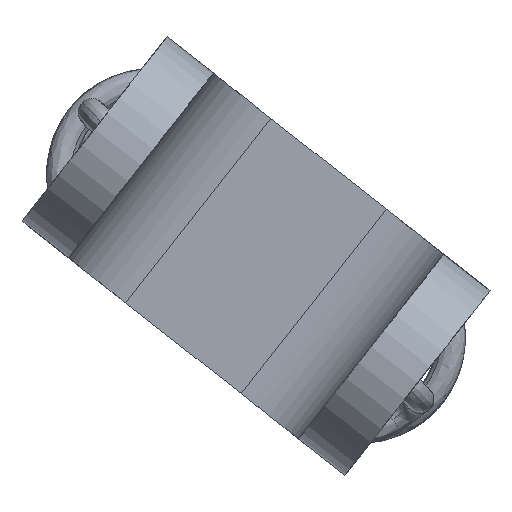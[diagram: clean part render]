
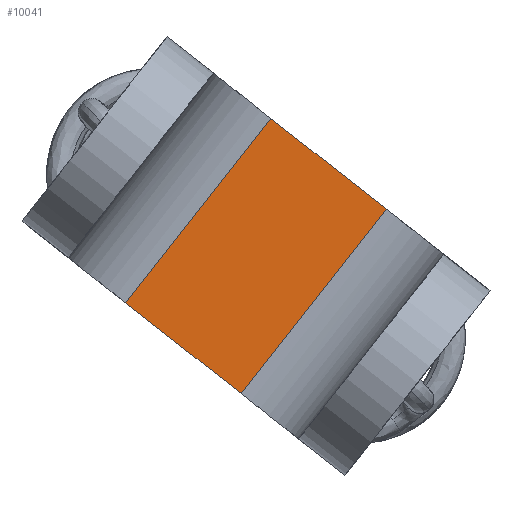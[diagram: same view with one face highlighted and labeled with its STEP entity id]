
A CAD part, front view. The second image highlights one B-rep face of the part: STEP entity #10041.
In plain terms, the highlighted planar face has unit normal (0, -1, 0).
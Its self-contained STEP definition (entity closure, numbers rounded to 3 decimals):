
#541 = VERTEX_POINT ( 'NONE', #7095 ) ;
#564 = VERTEX_POINT ( 'NONE', #2841 ) ;
#1219 = ORIENTED_EDGE ( 'NONE', *, *, #6002, .T. ) ;
#1306 = LINE ( 'NONE', #3829, #9352 ) ;
#1379 = CARTESIAN_POINT ( 'NONE',  ( 75.417, -31., -871.107 ) ) ;
#1540 = DIRECTION ( 'NONE',  ( 0., 1., 0. ) ) ;
#1562 = ORIENTED_EDGE ( 'NONE', *, *, #2364, .F. ) ;
#1777 = CARTESIAN_POINT ( 'NONE',  ( 57.667, -31., -877.505 ) ) ;
#2364 = EDGE_CURVE ( 'NONE', #7892, #541, #1306, .T. ) ;
#2389 = FACE_OUTER_BOUND ( 'NONE', #7030, .T. ) ;
#2841 = CARTESIAN_POINT ( 'NONE',  ( 67.556, -31., -864.927 ) ) ;
#2973 = LINE ( 'NONE', #3949, #9786 ) ;
#3829 = CARTESIAN_POINT ( 'NONE',  ( 75.417, -31., -871.107 ) ) ;
#3949 = CARTESIAN_POINT ( 'NONE',  ( 65.528, -31., -883.685 ) ) ;
#5033 = CARTESIAN_POINT ( 'NONE',  ( 75.417, -31., -871.107 ) ) ;
#5072 = DIRECTION ( 'NONE',  ( -0.618, 0., -0.786 ) ) ;
#5620 = DIRECTION ( 'NONE',  ( -0.786, 0., 0.618 ) ) ;
#5783 = CARTESIAN_POINT ( 'NONE',  ( 65.528, -31., -883.685 ) ) ;
#5789 = VERTEX_POINT ( 'NONE', #1777 ) ;
#6002 = EDGE_CURVE ( 'NONE', #564, #5789, #8498, .T. ) ;
#6473 = VECTOR ( 'NONE', #5072, 1000. ) ;
#6504 = EDGE_CURVE ( 'NONE', #7892, #564, #7454, .T. ) ;
#6573 = DIRECTION ( 'NONE',  ( -0.618, 0., -0.786 ) ) ;
#7030 = EDGE_LOOP ( 'NONE', ( #1562, #7571, #1219, #7124 ) ) ;
#7095 = CARTESIAN_POINT ( 'NONE',  ( 65.528, -31., -883.685 ) ) ;
#7124 = ORIENTED_EDGE ( 'NONE', *, *, #7668, .F. ) ;
#7454 = LINE ( 'NONE', #1379, #9034 ) ;
#7571 = ORIENTED_EDGE ( 'NONE', *, *, #6504, .T. ) ;
#7656 = CARTESIAN_POINT ( 'NONE',  ( 57.667, -31., -877.505 ) ) ;
#7668 = EDGE_CURVE ( 'NONE', #541, #5789, #2973, .T. ) ;
#7892 = VERTEX_POINT ( 'NONE', #5033 ) ;
#8498 = LINE ( 'NONE', #7656, #6473 ) ;
#8738 = AXIS2_PLACEMENT_3D ( 'NONE', #5783, #1540, #9383 ) ;
#9034 = VECTOR ( 'NONE', #5620, 1000. ) ;
#9352 = VECTOR ( 'NONE', #6573, 1000. ) ;
#9383 = DIRECTION ( 'NONE',  ( 1., 0., 0. ) ) ;
#9756 = DIRECTION ( 'NONE',  ( -0.786, 0., 0.618 ) ) ;
#9786 = VECTOR ( 'NONE', #9756, 1000. ) ;
#10041 = ADVANCED_FACE ( 'NONE', ( #2389 ), #11159, .F. ) ;
#11159 = PLANE ( 'NONE',  #8738 ) ;
